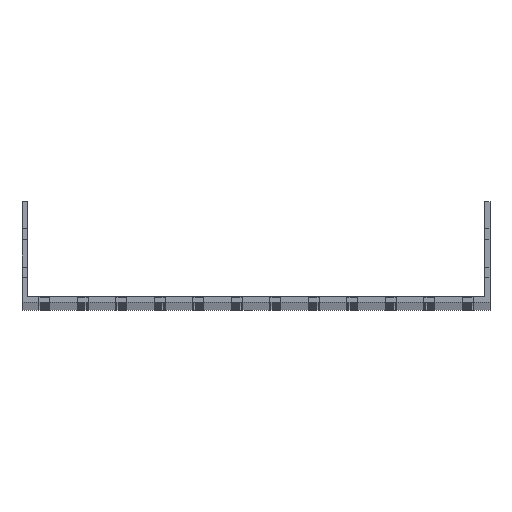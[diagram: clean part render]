
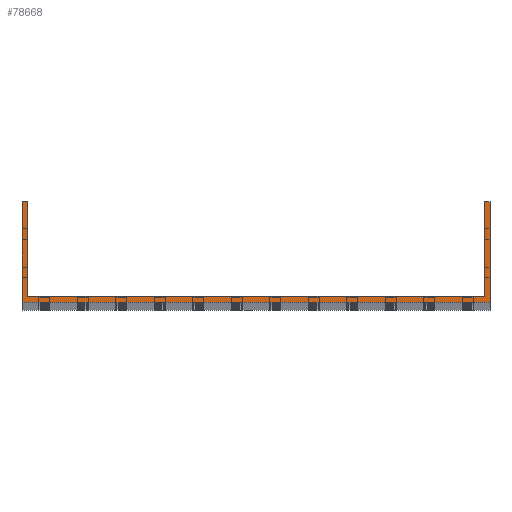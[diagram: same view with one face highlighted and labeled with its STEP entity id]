
A CAD part, top view. The second image highlights one B-rep face of the part: STEP entity #78668.
In plain terms, the highlighted planar face has unit normal (0, 0, 1).
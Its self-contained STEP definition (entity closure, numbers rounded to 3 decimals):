
#2612 = VECTOR ( 'NONE', #73155, 1000. ) ;
#7411 = LINE ( 'NONE', #150933, #130619 ) ;
#7628 = DIRECTION ( 'NONE',  ( -1., 0., 0. ) ) ;
#8565 = ORIENTED_EDGE ( 'NONE', *, *, #152326, .T. ) ;
#9626 = VECTOR ( 'NONE', #68664, 1000. ) ;
#13995 = DIRECTION ( 'NONE',  ( 0., 1., 0. ) ) ;
#15981 = ORIENTED_EDGE ( 'NONE', *, *, #117039, .T. ) ;
#29611 = CARTESIAN_POINT ( 'NONE',  ( 148.5, 65.5, 1500. ) ) ;
#32203 = LINE ( 'NONE', #153484, #9626 ) ;
#32424 = VECTOR ( 'NONE', #7628, 1000. ) ;
#40197 = ORIENTED_EDGE ( 'NONE', *, *, #94376, .F. ) ;
#48963 = VECTOR ( 'NONE', #139989, 1000. ) ;
#54178 = CARTESIAN_POINT ( 'NONE',  ( -152., 0., 1500. ) ) ;
#62385 = CARTESIAN_POINT ( 'NONE',  ( -148.5, 65.5, 1500. ) ) ;
#66120 = EDGE_CURVE ( 'NONE', #79512, #117171, #91686, .T. ) ;
#67042 = CARTESIAN_POINT ( 'NONE',  ( -152., 65.5, 1500. ) ) ;
#67397 = VERTEX_POINT ( 'NONE', #136766 ) ;
#68664 = DIRECTION ( 'NONE',  ( 1., 0., 0. ) ) ;
#73155 = DIRECTION ( 'NONE',  ( 0., 1., 0. ) ) ;
#77585 = FACE_OUTER_BOUND ( 'NONE', #98032, .T. ) ;
#78668 = ADVANCED_FACE ( 'NONE', ( #77585 ), #129078, .T. ) ;
#79512 = VERTEX_POINT ( 'NONE', #137100 ) ;
#80052 = VECTOR ( 'NONE', #13995, 1000. ) ;
#81503 = VECTOR ( 'NONE', #117758, 1000. ) ;
#82070 = CARTESIAN_POINT ( 'NONE',  ( -148.5, 65.5, 1500. ) ) ;
#84564 = CARTESIAN_POINT ( 'NONE',  ( 152., 0., 1500. ) ) ;
#86436 = VECTOR ( 'NONE', #107712, 1000. ) ;
#90687 = DIRECTION ( 'NONE',  ( -1., 0., 0. ) ) ;
#90949 = ORIENTED_EDGE ( 'NONE', *, *, #102898, .F. ) ;
#91686 = LINE ( 'NONE', #140049, #32424 ) ;
#93030 = CARTESIAN_POINT ( 'NONE',  ( -152., 65.5, 1500. ) ) ;
#93398 = DIRECTION ( 'NONE',  ( 0., 0., 1. ) ) ;
#94376 = EDGE_CURVE ( 'NONE', #96808, #103306, #106662, .T. ) ;
#96808 = VERTEX_POINT ( 'NONE', #62385 ) ;
#97717 = CARTESIAN_POINT ( 'NONE',  ( 152., 65.5, 1500. ) ) ;
#98032 = EDGE_LOOP ( 'NONE', ( #40197, #15981, #153908, #152548, #8565, #137139, #123201, #90949 ) ) ;
#98302 = CARTESIAN_POINT ( 'NONE',  ( 148.5, 65.5, 1500. ) ) ;
#98839 = LINE ( 'NONE', #29611, #80052 ) ;
#102898 = EDGE_CURVE ( 'NONE', #103306, #67397, #32203, .T. ) ;
#102938 = DIRECTION ( 'NONE',  ( 1., 0., 0. ) ) ;
#103306 = VERTEX_POINT ( 'NONE', #132444 ) ;
#106662 = LINE ( 'NONE', #82070, #81503 ) ;
#106929 = LINE ( 'NONE', #155285, #86436 ) ;
#107053 = VERTEX_POINT ( 'NONE', #54178 ) ;
#107712 = DIRECTION ( 'NONE',  ( 1., 0., 0. ) ) ;
#110399 = LINE ( 'NONE', #97717, #2612 ) ;
#116202 = LINE ( 'NONE', #67042, #48963 ) ;
#117039 = EDGE_CURVE ( 'NONE', #96808, #120673, #7411, .T. ) ;
#117171 = VERTEX_POINT ( 'NONE', #98302 ) ;
#117758 = DIRECTION ( 'NONE',  ( 0., -1., 0. ) ) ;
#120673 = VERTEX_POINT ( 'NONE', #93030 ) ;
#123201 = ORIENTED_EDGE ( 'NONE', *, *, #145460, .F. ) ;
#126676 = EDGE_CURVE ( 'NONE', #107053, #135414, #106929, .T. ) ;
#128800 = EDGE_CURVE ( 'NONE', #120673, #107053, #116202, .T. ) ;
#129078 = PLANE ( 'NONE',  #151659 ) ;
#130619 = VECTOR ( 'NONE', #90687, 1000. ) ;
#132444 = CARTESIAN_POINT ( 'NONE',  ( -148.5, 3.5, 1500. ) ) ;
#135414 = VERTEX_POINT ( 'NONE', #84564 ) ;
#136766 = CARTESIAN_POINT ( 'NONE',  ( 148.5, 3.5, 1500. ) ) ;
#137100 = CARTESIAN_POINT ( 'NONE',  ( 152., 65.5, 1500. ) ) ;
#137139 = ORIENTED_EDGE ( 'NONE', *, *, #66120, .T. ) ;
#139989 = DIRECTION ( 'NONE',  ( 0., -1., 0. ) ) ;
#140049 = CARTESIAN_POINT ( 'NONE',  ( -152., 65.5, 1500. ) ) ;
#145460 = EDGE_CURVE ( 'NONE', #67397, #117171, #98839, .T. ) ;
#150933 = CARTESIAN_POINT ( 'NONE',  ( -152., 65.5, 1500. ) ) ;
#151304 = CARTESIAN_POINT ( 'NONE',  ( 0., 0., 1500. ) ) ;
#151659 = AXIS2_PLACEMENT_3D ( 'NONE', #151304, #93398, #102938 ) ;
#152326 = EDGE_CURVE ( 'NONE', #135414, #79512, #110399, .T. ) ;
#152548 = ORIENTED_EDGE ( 'NONE', *, *, #126676, .T. ) ;
#153484 = CARTESIAN_POINT ( 'NONE',  ( -152., 3.5, 1500. ) ) ;
#153908 = ORIENTED_EDGE ( 'NONE', *, *, #128800, .T. ) ;
#155285 = CARTESIAN_POINT ( 'NONE',  ( -152., 0., 1500. ) ) ;
